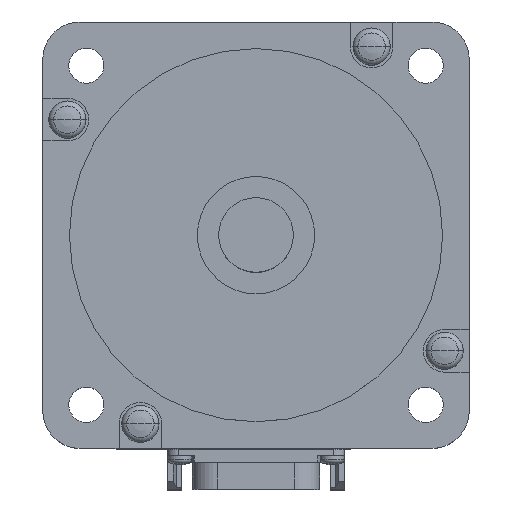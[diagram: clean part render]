
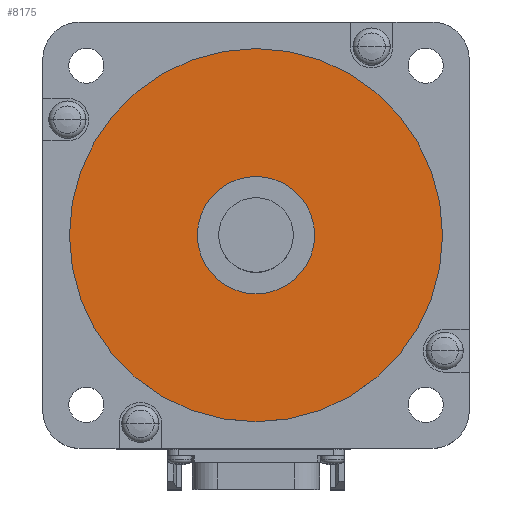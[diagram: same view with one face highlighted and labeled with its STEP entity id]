
A CAD part, top view. The second image highlights one B-rep face of the part: STEP entity #8175.
In plain terms, the highlighted planar face has unit normal (0, 0, 1).
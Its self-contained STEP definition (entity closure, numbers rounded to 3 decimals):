
#1859=CARTESIAN_POINT('',(0.,0.,3.));
#1860=DIRECTION('',(0.,0.,-1.));
#1861=DIRECTION('',(1.,0.,0.));
#1862=AXIS2_PLACEMENT_3D('',#1859,#1860,#1861);
#1864=CARTESIAN_POINT('',(0.,0.,3.));
#1865=DIRECTION('',(0.,0.,-1.));
#1866=DIRECTION('',(-1.,0.,0.));
#1867=AXIS2_PLACEMENT_3D('',#1864,#1865,#1866);
#1869=CARTESIAN_POINT('',(0.,0.,3.));
#1870=DIRECTION('',(0.,0.,1.));
#1871=DIRECTION('',(1.,0.,0.));
#1872=AXIS2_PLACEMENT_3D('',#1869,#1870,#1871);
#1874=CARTESIAN_POINT('',(0.,0.,3.));
#1875=DIRECTION('',(0.,0.,1.));
#1876=DIRECTION('',(-1.,0.,0.));
#1877=AXIS2_PLACEMENT_3D('',#1874,#1875,#1876);
#4628=CARTESIAN_POINT('',(35.,0.,3.));
#4629=VERTEX_POINT('',#4628);
#4630=CARTESIAN_POINT('',(-35.,0.,3.));
#4631=VERTEX_POINT('',#4630);
#5700=CARTESIAN_POINT('',(11.,0.,3.));
#5701=CARTESIAN_POINT('',(-11.,0.,3.));
#5702=VERTEX_POINT('',#5700);
#5703=VERTEX_POINT('',#5701);
#8159=CARTESIAN_POINT('',(0.,0.,3.));
#8160=DIRECTION('',(0.,0.,1.));
#8161=DIRECTION('',(1.,0.,0.));
#8162=AXIS2_PLACEMENT_3D('',#8159,#8160,#8161);
#8163=PLANE('',#8162);
#8164=ORIENTED_EDGE('',*,*,#8149,.T.);
#8166=ORIENTED_EDGE('',*,*,#8165,.T.);
#8167=EDGE_LOOP('',(#8164,#8166));
#8168=FACE_OUTER_BOUND('',#8167,.F.);
#8170=ORIENTED_EDGE('',*,*,#8169,.T.);
#8172=ORIENTED_EDGE('',*,*,#8171,.T.);
#8173=EDGE_LOOP('',(#8170,#8172));
#8174=FACE_BOUND('',#8173,.F.);
#8175=ADVANCED_FACE('',(#8168,#8174),#8163,.T.);
#1863=CIRCLE('',#1862,35.);
#1868=CIRCLE('',#1867,35.);
#1873=CIRCLE('',#1872,11.);
#1878=CIRCLE('',#1877,11.);
#8149=EDGE_CURVE('',#4629,#4631,#1863,.T.);
#8165=EDGE_CURVE('',#4631,#4629,#1868,.T.);
#8169=EDGE_CURVE('',#5702,#5703,#1873,.T.);
#8171=EDGE_CURVE('',#5703,#5702,#1878,.T.);
